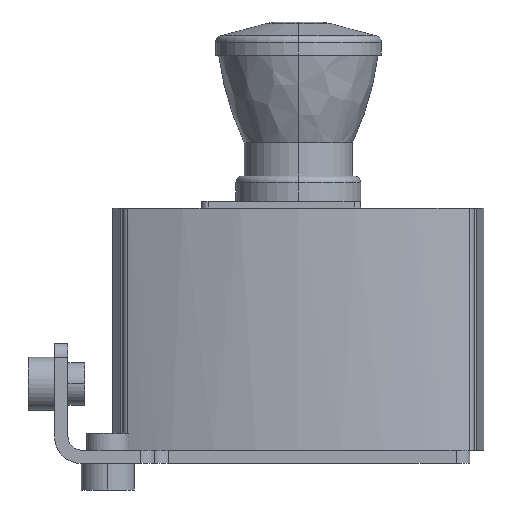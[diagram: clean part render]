
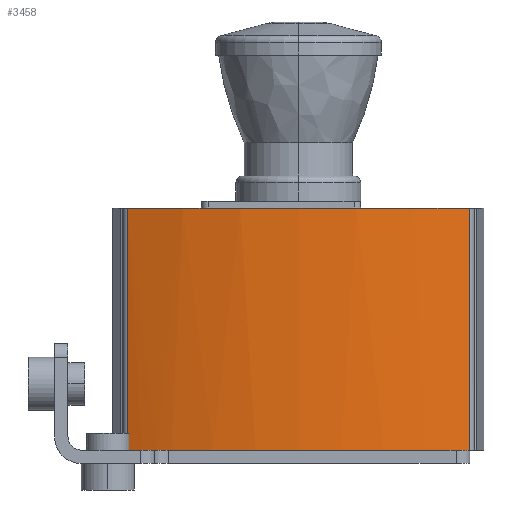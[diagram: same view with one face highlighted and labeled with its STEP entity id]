
A CAD part, left-side view. The second image highlights one B-rep face of the part: STEP entity #3458.
In plain terms, the highlighted cylindrical face has radius 109.22 mm (diameter 218.44 mm), a partial arc.
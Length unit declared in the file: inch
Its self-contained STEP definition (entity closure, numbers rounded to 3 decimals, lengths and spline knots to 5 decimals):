
#89=CARTESIAN_POINT('',(2.63,0.,0.));
#90=DIRECTION('',(0.,0.,1.));
#91=DIRECTION('',(-0.927,0.374,0.));
#92=AXIS2_PLACEMENT_3D('',#89,#90,#91);
#750=CARTESIAN_POINT('',(2.63,0.,0.));
#751=DIRECTION('',(0.,0.,1.));
#752=DIRECTION('',(-0.96,0.278,0.));
#753=AXIS2_PLACEMENT_3D('',#750,#751,#752);
#755=CARTESIAN_POINT('',(2.63,0.,0.));
#756=DIRECTION('',(0.,0.,1.));
#757=DIRECTION('',(-1.,0.,0.));
#758=AXIS2_PLACEMENT_3D('',#755,#756,#757);
#760=DIRECTION('',(0.,0.,-1.));
#761=VECTOR('',#760,2.28);
#762=CARTESIAN_POINT('',(-1.35787,-1.60838,2.28));
#763=LINE('',#762,#761);
#779=CARTESIAN_POINT('',(2.63,0.,2.28));
#780=DIRECTION('',(0.,0.,-1.));
#781=DIRECTION('',(-0.927,-0.374,0.));
#782=AXIS2_PLACEMENT_3D('',#779,#780,#781);
#784=CARTESIAN_POINT('',(2.63,0.,2.28));
#785=DIRECTION('',(0.,0.,-1.));
#786=DIRECTION('',(-1.,0.,0.));
#787=AXIS2_PLACEMENT_3D('',#784,#785,#786);
#1006=CARTESIAN_POINT('',(2.63,0.,0.));
#1007=DIRECTION('',(0.,0.,1.));
#1008=DIRECTION('',(-0.96,-0.278,0.));
#1009=AXIS2_PLACEMENT_3D('',#1006,#1007,#1008);
#1053=DIRECTION('',(0.,0.,-1.));
#1054=VECTOR('',#1053,2.28);
#1055=CARTESIAN_POINT('',(-1.35787,1.60838,2.28));
#1056=LINE('',#1055,#1054);
#2078=CARTESIAN_POINT('',(-1.5,-1.19712,0.));
#2079=CARTESIAN_POINT('',(-1.5,1.19712,0.));
#2080=VERTEX_POINT('',#2078);
#2081=VERTEX_POINT('',#2079);
#2082=CARTESIAN_POINT('',(-1.67,0.,0.));
#2083=VERTEX_POINT('',#2082);
#2134=CARTESIAN_POINT('',(-1.35787,1.60838,0.));
#2135=VERTEX_POINT('',#2134);
#2162=CARTESIAN_POINT('',(-1.35787,-1.60838,0.));
#2163=VERTEX_POINT('',#2162);
#2186=CARTESIAN_POINT('',(-1.35787,-1.60838,2.28));
#2187=VERTEX_POINT('',#2186);
#2188=CARTESIAN_POINT('',(-1.67,0.,2.28));
#2189=CARTESIAN_POINT('',(-1.35787,1.60838,2.28));
#2190=VERTEX_POINT('',#2188);
#2191=VERTEX_POINT('',#2189);
#3438=CARTESIAN_POINT('',(2.63,0.,1.14));
#3439=DIRECTION('',(0.,0.,-1.));
#3440=DIRECTION('',(-1.,0.,0.));
#3441=AXIS2_PLACEMENT_3D('',#3438,#3439,#3440);
#3442=CYLINDRICAL_SURFACE('',#3441,4.3);
#3444=ORIENTED_EDGE('',*,*,#3443,.F.);
#3446=ORIENTED_EDGE('',*,*,#3445,.F.);
#3448=ORIENTED_EDGE('',*,*,#3447,.T.);
#3450=ORIENTED_EDGE('',*,*,#3449,.F.);
#3451=ORIENTED_EDGE('',*,*,#3433,.F.);
#3452=ORIENTED_EDGE('',*,*,#3431,.F.);
#3453=ORIENTED_EDGE('',*,*,#2601,.F.);
#3455=ORIENTED_EDGE('',*,*,#3454,.F.);
#3456=EDGE_LOOP('',(#3444,#3446,#3448,#3450,#3451,#3452,#3453,#3455));
#3457=FACE_OUTER_BOUND('',#3456,.F.);
#93=CIRCLE('',#92,4.3);
#754=CIRCLE('',#753,4.3);
#759=CIRCLE('',#758,4.3);
#783=CIRCLE('',#782,4.3);
#788=CIRCLE('',#787,4.3);
#1010=CIRCLE('',#1009,4.3);
#2601=EDGE_CURVE('',#2135,#2081,#93,.T.);
#3431=EDGE_CURVE('',#2081,#2083,#754,.T.);
#3433=EDGE_CURVE('',#2083,#2080,#759,.T.);
#3443=EDGE_CURVE('',#2190,#2191,#788,.T.);
#3445=EDGE_CURVE('',#2187,#2190,#783,.T.);
#3447=EDGE_CURVE('',#2187,#2163,#763,.T.);
#3449=EDGE_CURVE('',#2080,#2163,#1010,.T.);
#3454=EDGE_CURVE('',#2191,#2135,#1056,.T.);
#3458=ADVANCED_FACE('',(#3457),#3442,.T.);
